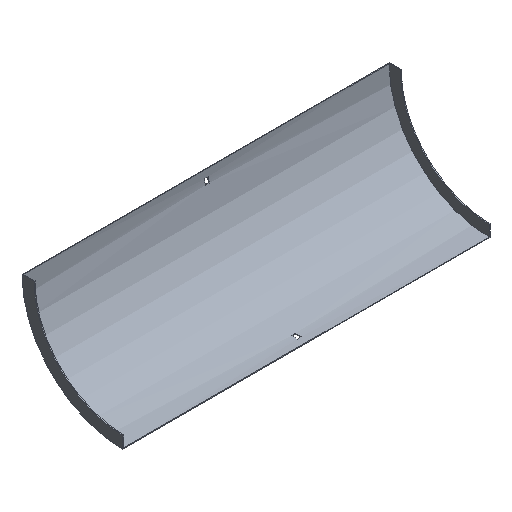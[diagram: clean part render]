
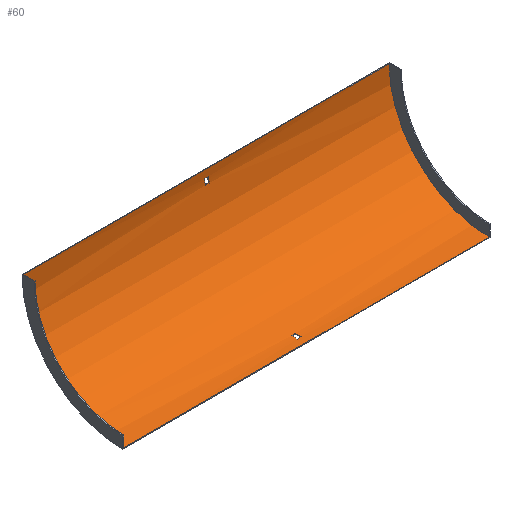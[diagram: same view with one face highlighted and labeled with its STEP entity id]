
A CAD part, isometric view. The second image highlights one B-rep face of the part: STEP entity #60.
In plain terms, the highlighted cylindrical face has radius 165.5 mm (diameter 331 mm), a partial arc.
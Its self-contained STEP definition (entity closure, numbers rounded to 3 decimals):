
#2 = DIRECTION ( 'NONE',  ( 1., 0., 0. ) ) ;
#8 = VERTEX_POINT ( 'NONE', #27 ) ;
#12 = DIRECTION ( 'NONE',  ( -1., 0., 0. ) ) ;
#15 = LINE ( 'NONE', #196, #523 ) ;
#24 = ORIENTED_EDGE ( 'NONE', *, *, #377, .F. ) ;
#26 = DIRECTION ( 'NONE',  ( -1., 0., 0. ) ) ;
#27 = CARTESIAN_POINT ( 'NONE',  ( -302., -167., -165.5 ) ) ;
#29 = CIRCLE ( 'NONE', #325, 165.5 ) ;
#42 = LINE ( 'NONE', #135, #312 ) ;
#43 = EDGE_LOOP ( 'NONE', ( #328, #289, #388, #501 ) ) ;
#55 = CARTESIAN_POINT ( 'NONE',  ( -302., -1.5, 0. ) ) ;
#57 = VERTEX_POINT ( 'NONE', #297 ) ;
#60 = ADVANCED_FACE ( 'NONE', ( #486, #113, #66 ), #488, .F. ) ;
#61 = CARTESIAN_POINT ( 'NONE',  ( 3.25, -167., 0. ) ) ;
#63 = ORIENTED_EDGE ( 'NONE', *, *, #319, .T. ) ;
#66 = FACE_BOUND ( 'NONE', #458, .T. ) ;
#79 = VERTEX_POINT ( 'NONE', #544 ) ;
#83 = DIRECTION ( 'NONE',  ( 1., 0., 0. ) ) ;
#88 = DIRECTION ( 'NONE',  ( 0., 0., 1. ) ) ;
#92 = DIRECTION ( 'NONE',  ( 0., 0., -1. ) ) ;
#98 = DIRECTION ( 'NONE',  ( 1., 0., 0. ) ) ;
#104 = EDGE_CURVE ( 'NONE', #554, #376, #515, .T. ) ;
#113 = FACE_OUTER_BOUND ( 'NONE', #43, .T. ) ;
#114 = AXIS2_PLACEMENT_3D ( 'NONE', #507, #98, #88 ) ;
#118 = EDGE_CURVE ( 'NONE', #548, #79, #480, .T. ) ;
#130 = CARTESIAN_POINT ( 'NONE',  ( 302., -1.5, 0. ) ) ;
#134 = DIRECTION ( 'NONE',  ( 1., 0., 0. ) ) ;
#135 = CARTESIAN_POINT ( 'NONE',  ( 303.5, -146., -164.162 ) ) ;
#139 = CARTESIAN_POINT ( 'NONE',  ( -3.25, -167., 0. ) ) ;
#156 = AXIS2_PLACEMENT_3D ( 'NONE', #417, #2, #92 ) ;
#163 = EDGE_CURVE ( 'NONE', #603, #438, #42, .T. ) ;
#167 = CARTESIAN_POINT ( 'NONE',  ( 303.5, -167., 0. ) ) ;
#175 = ORIENTED_EDGE ( 'NONE', *, *, #104, .T. ) ;
#180 = CARTESIAN_POINT ( 'NONE',  ( 3.25, -2.838, -21. ) ) ;
#191 = ORIENTED_EDGE ( 'NONE', *, *, #163, .T. ) ;
#195 = AXIS2_PLACEMENT_3D ( 'NONE', #61, #346, #288 ) ;
#196 = CARTESIAN_POINT ( 'NONE',  ( 302., -167., -165.5 ) ) ;
#209 = ORIENTED_EDGE ( 'NONE', *, *, #118, .F. ) ;
#213 = AXIS2_PLACEMENT_3D ( 'NONE', #234, #12, #382 ) ;
#219 = EDGE_LOOP ( 'NONE', ( #269, #24, #209, #571 ) ) ;
#220 = EDGE_CURVE ( 'NONE', #479, #548, #225, .T. ) ;
#223 = EDGE_CURVE ( 'NONE', #534, #529, #457, .T. ) ;
#225 = LINE ( 'NONE', #316, #352 ) ;
#234 = CARTESIAN_POINT ( 'NONE',  ( -3.25, -167., 0. ) ) ;
#240 = CARTESIAN_POINT ( 'NONE',  ( 302., -167., -165.5 ) ) ;
#261 = CIRCLE ( 'NONE', #213, 165.5 ) ;
#269 = ORIENTED_EDGE ( 'NONE', *, *, #559, .F. ) ;
#287 = LINE ( 'NONE', #477, #564 ) ;
#288 = DIRECTION ( 'NONE',  ( 0., 0., 1. ) ) ;
#289 = ORIENTED_EDGE ( 'NONE', *, *, #393, .F. ) ;
#297 = CARTESIAN_POINT ( 'NONE',  ( -3.25, -1.936, -12. ) ) ;
#301 = CIRCLE ( 'NONE', #481, 165.5 ) ;
#306 = CARTESIAN_POINT ( 'NONE',  ( -3.25, -2.838, -21. ) ) ;
#312 = VECTOR ( 'NONE', #406, 1000. ) ;
#316 = CARTESIAN_POINT ( 'NONE',  ( 303.5, -2.838, -21. ) ) ;
#319 = EDGE_CURVE ( 'NONE', #438, #554, #404, .T. ) ;
#325 = AXIS2_PLACEMENT_3D ( 'NONE', #597, #83, #459 ) ;
#326 = CARTESIAN_POINT ( 'NONE',  ( 3.25, -155., -165.064 ) ) ;
#328 = ORIENTED_EDGE ( 'NONE', *, *, #599, .F. ) ;
#340 = DIRECTION ( 'NONE',  ( 0., 0., -1. ) ) ;
#346 = DIRECTION ( 'NONE',  ( -1., 0., 0. ) ) ;
#352 = VECTOR ( 'NONE', #460, 1000. ) ;
#356 = CARTESIAN_POINT ( 'NONE',  ( 3.25, -146., -164.162 ) ) ;
#366 = DIRECTION ( 'NONE',  ( -1., 0., 0. ) ) ;
#368 = CARTESIAN_POINT ( 'NONE',  ( 303.5, -155., -165.064 ) ) ;
#370 = CARTESIAN_POINT ( 'NONE',  ( 302., -1.5, 0. ) ) ;
#374 = CARTESIAN_POINT ( 'NONE',  ( -3.25, -146., -164.162 ) ) ;
#376 = VERTEX_POINT ( 'NONE', #426 ) ;
#377 = EDGE_CURVE ( 'NONE', #79, #57, #287, .T. ) ;
#382 = DIRECTION ( 'NONE',  ( 0., 0., 1. ) ) ;
#387 = DIRECTION ( 'NONE',  ( -1., 0., 0. ) ) ;
#388 = ORIENTED_EDGE ( 'NONE', *, *, #484, .T. ) ;
#393 = EDGE_CURVE ( 'NONE', #586, #8, #15, .T. ) ;
#404 = CIRCLE ( 'NONE', #195, 165.5 ) ;
#406 = DIRECTION ( 'NONE',  ( 1., 0., 0. ) ) ;
#414 = DIRECTION ( 'NONE',  ( -1., 0., 0. ) ) ;
#417 = CARTESIAN_POINT ( 'NONE',  ( 3.25, -167., 0. ) ) ;
#426 = CARTESIAN_POINT ( 'NONE',  ( -3.25, -155., -165.064 ) ) ;
#438 = VERTEX_POINT ( 'NONE', #356 ) ;
#444 = DIRECTION ( 'NONE',  ( 0., 0., 1. ) ) ;
#457 = LINE ( 'NONE', #130, #551 ) ;
#458 = EDGE_LOOP ( 'NONE', ( #175, #574, #191, #63 ) ) ;
#459 = DIRECTION ( 'NONE',  ( 0., 0., 1. ) ) ;
#460 = DIRECTION ( 'NONE',  ( 1., 0., 0. ) ) ;
#477 = CARTESIAN_POINT ( 'NONE',  ( 303.5, -1.936, -12. ) ) ;
#479 = VERTEX_POINT ( 'NONE', #306 ) ;
#480 = CIRCLE ( 'NONE', #156, 165.5 ) ;
#481 = AXIS2_PLACEMENT_3D ( 'NONE', #139, #134, #340 ) ;
#484 = EDGE_CURVE ( 'NONE', #586, #534, #29, .T. ) ;
#486 = FACE_BOUND ( 'NONE', #219, .T. ) ;
#488 = CYLINDRICAL_SURFACE ( 'NONE', #498, 165.5 ) ;
#498 = AXIS2_PLACEMENT_3D ( 'NONE', #167, #26, #444 ) ;
#501 = ORIENTED_EDGE ( 'NONE', *, *, #223, .T. ) ;
#507 = CARTESIAN_POINT ( 'NONE',  ( -302., -167., 0. ) ) ;
#515 = LINE ( 'NONE', #368, #601 ) ;
#521 = DIRECTION ( 'NONE',  ( -1., 0., 0. ) ) ;
#523 = VECTOR ( 'NONE', #387, 1000. ) ;
#529 = VERTEX_POINT ( 'NONE', #55 ) ;
#534 = VERTEX_POINT ( 'NONE', #370 ) ;
#538 = EDGE_CURVE ( 'NONE', #376, #603, #301, .T. ) ;
#544 = CARTESIAN_POINT ( 'NONE',  ( 3.25, -1.936, -12. ) ) ;
#548 = VERTEX_POINT ( 'NONE', #180 ) ;
#551 = VECTOR ( 'NONE', #366, 1000. ) ;
#554 = VERTEX_POINT ( 'NONE', #326 ) ;
#559 = EDGE_CURVE ( 'NONE', #57, #479, #261, .T. ) ;
#564 = VECTOR ( 'NONE', #521, 1000. ) ;
#571 = ORIENTED_EDGE ( 'NONE', *, *, #220, .F. ) ;
#574 = ORIENTED_EDGE ( 'NONE', *, *, #538, .T. ) ;
#575 = CIRCLE ( 'NONE', #114, 165.5 ) ;
#586 = VERTEX_POINT ( 'NONE', #240 ) ;
#597 = CARTESIAN_POINT ( 'NONE',  ( 302., -167., 0. ) ) ;
#599 = EDGE_CURVE ( 'NONE', #8, #529, #575, .T. ) ;
#601 = VECTOR ( 'NONE', #414, 1000. ) ;
#603 = VERTEX_POINT ( 'NONE', #374 ) ;
